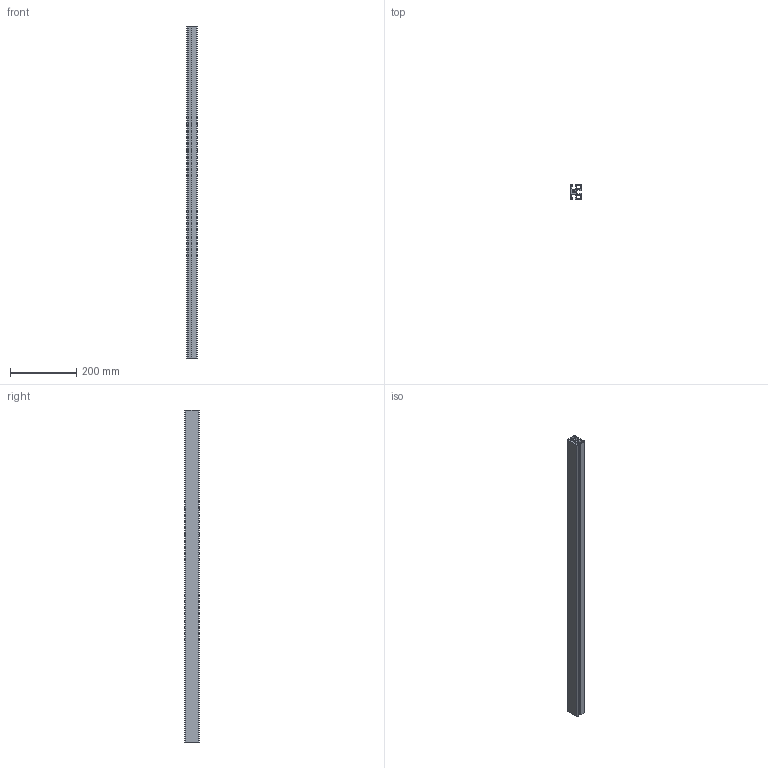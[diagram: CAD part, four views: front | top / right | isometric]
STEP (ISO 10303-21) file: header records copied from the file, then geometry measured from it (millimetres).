
FILE_DESCRIPTION (( 'STEP AP214' ), '1' );
FILE_NAME ('SA02004.step', '2024-12-03T16:28:40', ( '' ), ( '' ), 'SwSTEP 2.0', 'SolidWorks 2023', '' );
FILE_SCHEMA (( 'AUTOMOTIVE_DESIGN' ));
Length unit declared in the file: millimetre
Products named in the file (1): SA02004
Bounding box: 32 x 45 x 1000 mm (x, y, z)
Volume: 570704.6 mm3; surface area: 376915.1 mm2
Topology: 1 solids, 1 shells, 57 faces, 165 edges, 110 vertices
Faces by surface type: plane 35, cylinder 22
Full cylindrical faces by diameter (mm): 7.45 x1
Entity records: 1913 total; most frequent: CARTESIAN_POINT 332, ORIENTED_EDGE 328, DIRECTION 324, EDGE_CURVE 164, VECTOR 120, LINE 120, VERTEX_POINT 110, AXIS2_PLACEMENT_3D 102
